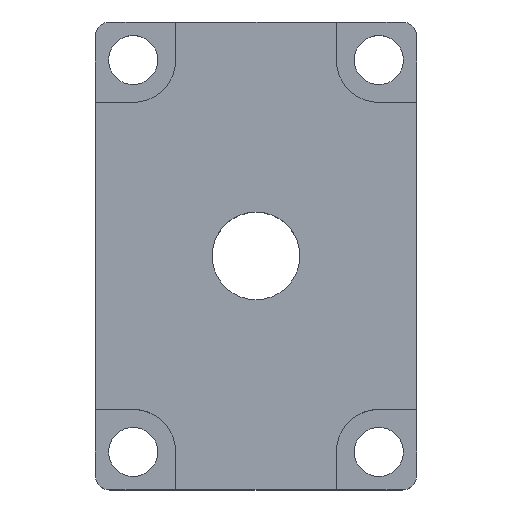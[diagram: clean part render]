
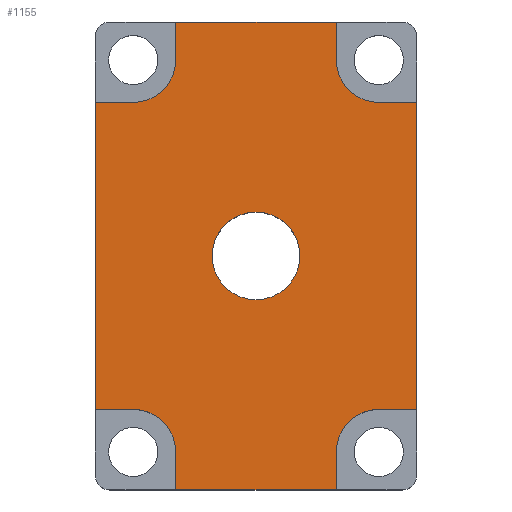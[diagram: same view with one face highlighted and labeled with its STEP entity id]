
A CAD part, top view. The second image highlights one B-rep face of the part: STEP entity #1155.
In plain terms, the highlighted planar face has unit normal (0, 0, 1).
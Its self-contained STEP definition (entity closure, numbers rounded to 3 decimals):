
#4 = CARTESIAN_POINT ( 'NONE',  ( 36.786, 53., 15. ) ) ;
#34 = VERTEX_POINT ( 'NONE', #43 ) ;
#40 = CARTESIAN_POINT ( 'NONE',  ( 31., 5.214, 15. ) ) ;
#43 = CARTESIAN_POINT ( 'NONE',  ( 3.214, 53., 15. ) ) ;
#47 = LINE ( 'NONE', #833, #136 ) ;
#57 = EDGE_CURVE ( 'NONE', #872, #680, #1144, .T. ) ;
#65 = DIRECTION ( 'NONE',  ( 1., 0., 0. ) ) ;
#75 = CARTESIAN_POINT ( 'NONE',  ( 0., 64., 15. ) ) ;
#76 = LINE ( 'NONE', #346, #393 ) ;
#80 = CARTESIAN_POINT ( 'NONE',  ( 31., 0., 15. ) ) ;
#89 = EDGE_CURVE ( 'NONE', #690, #303, #632, .T. ) ;
#97 = DIRECTION ( 'NONE',  ( -1., 0., 0. ) ) ;
#107 = EDGE_LOOP ( 'NONE', ( #854, #300, #145, #964, #231, #268, #812, #945, #875, #1132, #1217, #1137, #1091, #658, #999, #436 ) ) ;
#108 = CARTESIAN_POINT ( 'NONE',  ( 36.786, 5.214, 15. ) ) ;
#109 = CARTESIAN_POINT ( 'NONE',  ( 14., 32., 15. ) ) ;
#111 = CARTESIAN_POINT ( 'NONE',  ( -2., 2., 15. ) ) ;
#118 = CARTESIAN_POINT ( 'NONE',  ( 42., 11., 15. ) ) ;
#124 = EDGE_CURVE ( 'NONE', #301, #872, #400, .T. ) ;
#136 = VECTOR ( 'NONE', #273, 1000. ) ;
#145 = ORIENTED_EDGE ( 'NONE', *, *, #720, .T. ) ;
#156 = CARTESIAN_POINT ( 'NONE',  ( -2., 11., 15. ) ) ;
#170 = VERTEX_POINT ( 'NONE', #289 ) ;
#203 = LINE ( 'NONE', #1021, #502 ) ;
#204 = DIRECTION ( 'NONE',  ( -1., 0., 0. ) ) ;
#217 = EDGE_CURVE ( 'NONE', #170, #1117, #764, .T. ) ;
#224 = EDGE_CURVE ( 'NONE', #847, #301, #47, .T. ) ;
#231 = ORIENTED_EDGE ( 'NONE', *, *, #971, .T. ) ;
#233 = CARTESIAN_POINT ( 'NONE',  ( 20., 32., 15. ) ) ;
#240 = EDGE_CURVE ( 'NONE', #847, #879, #689, .T. ) ;
#245 = DIRECTION ( 'NONE',  ( -1., 0., 0. ) ) ;
#259 = LINE ( 'NONE', #1207, #1245 ) ;
#267 = ORIENTED_EDGE ( 'NONE', *, *, #744, .T. ) ;
#268 = ORIENTED_EDGE ( 'NONE', *, *, #944, .T. ) ;
#273 = DIRECTION ( 'NONE',  ( 1., 0., 0. ) ) ;
#285 = AXIS2_PLACEMENT_3D ( 'NONE', #1042, #1135, #1240 ) ;
#289 = CARTESIAN_POINT ( 'NONE',  ( 9., 64., 15. ) ) ;
#300 = ORIENTED_EDGE ( 'NONE', *, *, #595, .T. ) ;
#301 = VERTEX_POINT ( 'NONE', #801 ) ;
#303 = VERTEX_POINT ( 'NONE', #608 ) ;
#304 = DIRECTION ( 'NONE',  ( 0., 0., 1. ) ) ;
#333 = DIRECTION ( 'NONE',  ( 0., 0., -1. ) ) ;
#342 = AXIS2_PLACEMENT_3D ( 'NONE', #554, #469, #97 ) ;
#346 = CARTESIAN_POINT ( 'NONE',  ( 40., 0., 15. ) ) ;
#366 = DIRECTION ( 'NONE',  ( 0., 1., 0. ) ) ;
#390 = CARTESIAN_POINT ( 'NONE',  ( 9., 58.786, 15. ) ) ;
#392 = CARTESIAN_POINT ( 'NONE',  ( 31., 64., 15. ) ) ;
#393 = VECTOR ( 'NONE', #444, 1000. ) ;
#400 = CIRCLE ( 'NONE', #285, 5.786 ) ;
#423 = CARTESIAN_POINT ( 'NONE',  ( -2., 53., 15. ) ) ;
#429 = EDGE_CURVE ( 'NONE', #477, #978, #259, .T. ) ;
#430 = AXIS2_PLACEMENT_3D ( 'NONE', #233, #807, #987 ) ;
#432 = CARTESIAN_POINT ( 'NONE',  ( 31., 2., 15. ) ) ;
#436 = ORIENTED_EDGE ( 'NONE', *, *, #499, .F. ) ;
#444 = DIRECTION ( 'NONE',  ( -1., 0., 0. ) ) ;
#464 = CIRCLE ( 'NONE', #430, 6. ) ;
#469 = DIRECTION ( 'NONE',  ( 0., 0., -1. ) ) ;
#477 = VERTEX_POINT ( 'NONE', #736 ) ;
#494 = DIRECTION ( 'NONE',  ( 1., 0., 0. ) ) ;
#499 = EDGE_CURVE ( 'NONE', #477, #1035, #1131, .T. ) ;
#502 = VECTOR ( 'NONE', #366, 1000. ) ;
#507 = EDGE_CURVE ( 'NONE', #811, #1015, #624, .T. ) ;
#517 = ORIENTED_EDGE ( 'NONE', *, *, #507, .T. ) ;
#524 = DIRECTION ( 'NONE',  ( -1., 0., 0. ) ) ;
#539 = CARTESIAN_POINT ( 'NONE',  ( 42., 62., 15. ) ) ;
#554 = CARTESIAN_POINT ( 'NONE',  ( 3.214, 58.786, 15. ) ) ;
#580 = DIRECTION ( 'NONE',  ( 0., -1., 0. ) ) ;
#586 = VECTOR ( 'NONE', #805, 1000. ) ;
#595 = EDGE_CURVE ( 'NONE', #978, #603, #761, .T. ) ;
#603 = VERTEX_POINT ( 'NONE', #908 ) ;
#608 = CARTESIAN_POINT ( 'NONE',  ( 36.786, 11., 15. ) ) ;
#623 = LINE ( 'NONE', #848, #904 ) ;
#624 = CIRCLE ( 'NONE', #1226, 6. ) ;
#632 = CIRCLE ( 'NONE', #1067, 5.786 ) ;
#657 = CARTESIAN_POINT ( 'NONE',  ( -2., 11., 15. ) ) ;
#658 = ORIENTED_EDGE ( 'NONE', *, *, #89, .T. ) ;
#680 = VERTEX_POINT ( 'NONE', #815 ) ;
#683 = EDGE_LOOP ( 'NONE', ( #267, #517 ) ) ;
#689 = LINE ( 'NONE', #790, #1169 ) ;
#690 = VERTEX_POINT ( 'NONE', #40 ) ;
#698 = DIRECTION ( 'NONE',  ( 0., 1., 0. ) ) ;
#710 = LINE ( 'NONE', #156, #723 ) ;
#715 = CARTESIAN_POINT ( 'NONE',  ( 20., 32., 15. ) ) ;
#718 = EDGE_CURVE ( 'NONE', #34, #879, #802, .T. ) ;
#720 = EDGE_CURVE ( 'NONE', #603, #1117, #830, .T. ) ;
#723 = VECTOR ( 'NONE', #65, 1000. ) ;
#736 = CARTESIAN_POINT ( 'NONE',  ( 42., 53., 15. ) ) ;
#744 = EDGE_CURVE ( 'NONE', #1015, #811, #464, .T. ) ;
#761 = CIRCLE ( 'NONE', #1095, 5.786 ) ;
#764 = LINE ( 'NONE', #75, #1153 ) ;
#770 = DIRECTION ( 'NONE',  ( 0., 0., -1. ) ) ;
#784 = AXIS2_PLACEMENT_3D ( 'NONE', #111, #304, #494 ) ;
#790 = CARTESIAN_POINT ( 'NONE',  ( -2., 2., 15. ) ) ;
#801 = CARTESIAN_POINT ( 'NONE',  ( 3.214, 11., 15. ) ) ;
#802 = LINE ( 'NONE', #423, #1113 ) ;
#805 = DIRECTION ( 'NONE',  ( 0., 1., 0. ) ) ;
#806 = DIRECTION ( 'NONE',  ( 0., 0., -1. ) ) ;
#807 = DIRECTION ( 'NONE',  ( 0., 0., -1. ) ) ;
#808 = EDGE_CURVE ( 'NONE', #861, #680, #76, .T. ) ;
#811 = VERTEX_POINT ( 'NONE', #820 ) ;
#812 = ORIENTED_EDGE ( 'NONE', *, *, #718, .T. ) ;
#815 = CARTESIAN_POINT ( 'NONE',  ( 9., 0., 15. ) ) ;
#818 = EDGE_CURVE ( 'NONE', #303, #1035, #710, .T. ) ;
#820 = CARTESIAN_POINT ( 'NONE',  ( 26., 32., 15. ) ) ;
#830 = LINE ( 'NONE', #432, #586 ) ;
#833 = CARTESIAN_POINT ( 'NONE',  ( -2., 11., 15. ) ) ;
#835 = DIRECTION ( 'NONE',  ( 1., 0., 0. ) ) ;
#847 = VERTEX_POINT ( 'NONE', #657 ) ;
#848 = CARTESIAN_POINT ( 'NONE',  ( 9., 2., 15. ) ) ;
#854 = ORIENTED_EDGE ( 'NONE', *, *, #429, .T. ) ;
#857 = DIRECTION ( 'NONE',  ( 0., -1., 0. ) ) ;
#861 = VERTEX_POINT ( 'NONE', #80 ) ;
#872 = VERTEX_POINT ( 'NONE', #1036 ) ;
#875 = ORIENTED_EDGE ( 'NONE', *, *, #224, .T. ) ;
#878 = VECTOR ( 'NONE', #916, 1000. ) ;
#879 = VERTEX_POINT ( 'NONE', #1145 ) ;
#883 = VECTOR ( 'NONE', #857, 1000. ) ;
#894 = DIRECTION ( 'NONE',  ( -1., 0., 0. ) ) ;
#904 = VECTOR ( 'NONE', #580, 1000. ) ;
#906 = CARTESIAN_POINT ( 'NONE',  ( 36.786, 58.786, 15. ) ) ;
#908 = CARTESIAN_POINT ( 'NONE',  ( 31., 58.786, 15. ) ) ;
#916 = DIRECTION ( 'NONE',  ( 0., -1., 0. ) ) ;
#918 = CIRCLE ( 'NONE', #342, 5.786 ) ;
#944 = EDGE_CURVE ( 'NONE', #980, #34, #918, .T. ) ;
#945 = ORIENTED_EDGE ( 'NONE', *, *, #240, .F. ) ;
#949 = CARTESIAN_POINT ( 'NONE',  ( 9., 2., 15. ) ) ;
#963 = FACE_BOUND ( 'NONE', #683, .T. ) ;
#964 = ORIENTED_EDGE ( 'NONE', *, *, #217, .F. ) ;
#971 = EDGE_CURVE ( 'NONE', #170, #980, #623, .T. ) ;
#976 = FACE_OUTER_BOUND ( 'NONE', #107, .T. ) ;
#978 = VERTEX_POINT ( 'NONE', #4 ) ;
#980 = VERTEX_POINT ( 'NONE', #390 ) ;
#987 = DIRECTION ( 'NONE',  ( -1., 0., 0. ) ) ;
#999 = ORIENTED_EDGE ( 'NONE', *, *, #818, .T. ) ;
#1010 = DIRECTION ( 'NONE',  ( -1., 0., 0. ) ) ;
#1015 = VERTEX_POINT ( 'NONE', #109 ) ;
#1021 = CARTESIAN_POINT ( 'NONE',  ( 31., 2., 15. ) ) ;
#1035 = VERTEX_POINT ( 'NONE', #118 ) ;
#1036 = CARTESIAN_POINT ( 'NONE',  ( 9., 5.214, 15. ) ) ;
#1042 = CARTESIAN_POINT ( 'NONE',  ( 3.214, 5.214, 15. ) ) ;
#1053 = PLANE ( 'NONE',  #784 ) ;
#1067 = AXIS2_PLACEMENT_3D ( 'NONE', #108, #770, #204 ) ;
#1091 = ORIENTED_EDGE ( 'NONE', *, *, #1171, .T. ) ;
#1095 = AXIS2_PLACEMENT_3D ( 'NONE', #906, #806, #245 ) ;
#1113 = VECTOR ( 'NONE', #524, 1000. ) ;
#1117 = VERTEX_POINT ( 'NONE', #392 ) ;
#1131 = LINE ( 'NONE', #539, #878 ) ;
#1132 = ORIENTED_EDGE ( 'NONE', *, *, #124, .T. ) ;
#1135 = DIRECTION ( 'NONE',  ( 0., 0., -1. ) ) ;
#1137 = ORIENTED_EDGE ( 'NONE', *, *, #808, .F. ) ;
#1144 = LINE ( 'NONE', #949, #883 ) ;
#1145 = CARTESIAN_POINT ( 'NONE',  ( -2., 53., 15. ) ) ;
#1153 = VECTOR ( 'NONE', #835, 1000. ) ;
#1155 = ADVANCED_FACE ( 'NONE', ( #963, #976 ), #1053, .T. ) ;
#1169 = VECTOR ( 'NONE', #698, 1000. ) ;
#1171 = EDGE_CURVE ( 'NONE', #861, #690, #203, .T. ) ;
#1207 = CARTESIAN_POINT ( 'NONE',  ( -2., 53., 15. ) ) ;
#1217 = ORIENTED_EDGE ( 'NONE', *, *, #57, .T. ) ;
#1226 = AXIS2_PLACEMENT_3D ( 'NONE', #715, #333, #894 ) ;
#1240 = DIRECTION ( 'NONE',  ( -1., 0., 0. ) ) ;
#1245 = VECTOR ( 'NONE', #1010, 1000. ) ;
